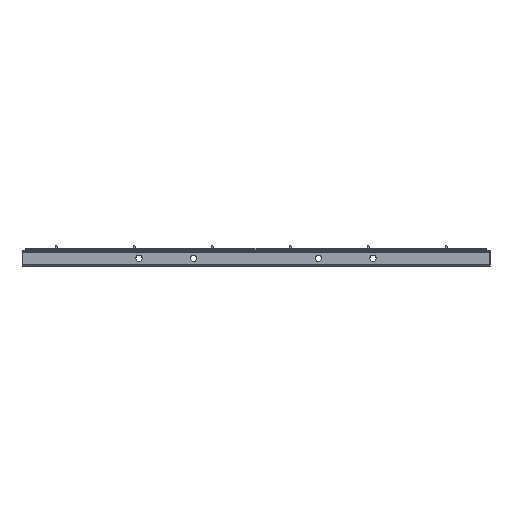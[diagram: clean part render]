
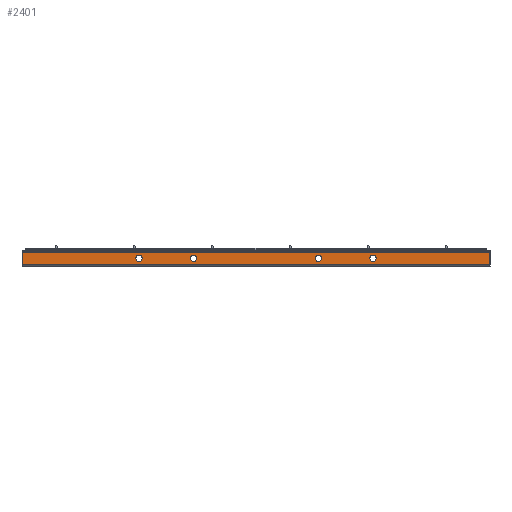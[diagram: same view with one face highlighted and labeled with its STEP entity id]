
A CAD part, left-side view. The second image highlights one B-rep face of the part: STEP entity #2401.
In plain terms, the highlighted planar face has unit normal (-1, 0, 0).
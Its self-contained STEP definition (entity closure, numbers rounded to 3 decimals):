
#156 = VERTEX_POINT ( 'NONE', #5540 ) ;
#212 = CARTESIAN_POINT ( 'NONE',  ( -750., 150., -4. ) ) ;
#262 = VERTEX_POINT ( 'NONE', #1767 ) ;
#406 = VECTOR ( 'NONE', #3541, 1000. ) ;
#413 = LINE ( 'NONE', #3591, #406 ) ;
#583 = VERTEX_POINT ( 'NONE', #6818 ) ;
#620 = EDGE_CURVE ( 'NONE', #156, #7776, #413, .T. ) ;
#704 = AXIS2_PLACEMENT_3D ( 'NONE', #3996, #5523, #3249 ) ;
#723 = CARTESIAN_POINT ( 'NONE',  ( -750., -300., -8. ) ) ;
#820 = DIRECTION ( 'NONE',  ( 0., 0., -1. ) ) ;
#873 = DIRECTION ( 'NONE',  ( 0., 0., -1. ) ) ;
#966 = EDGE_CURVE ( 'NONE', #4888, #583, #8930, .T. ) ;
#1017 = EDGE_LOOP ( 'NONE', ( #7639, #4688 ) ) ;
#1104 = AXIS2_PLACEMENT_3D ( 'NONE', #6111, #4522, #7797 ) ;
#1210 = CIRCLE ( 'NONE', #7135, 4. ) ;
#1498 = DIRECTION ( 'NONE',  ( 0., 0., -1. ) ) ;
#1519 = CARTESIAN_POINT ( 'NONE',  ( -750., -300., 8. ) ) ;
#1564 = ORIENTED_EDGE ( 'NONE', *, *, #2985, .T. ) ;
#1682 = ORIENTED_EDGE ( 'NONE', *, *, #3967, .T. ) ;
#1729 = ORIENTED_EDGE ( 'NONE', *, *, #5405, .T. ) ;
#1767 = CARTESIAN_POINT ( 'NONE',  ( -750., -150., 4. ) ) ;
#2145 = CARTESIAN_POINT ( 'NONE',  ( -750., -300., -8. ) ) ;
#2187 = EDGE_CURVE ( 'NONE', #262, #6465, #9065, .T. ) ;
#2308 = VECTOR ( 'NONE', #6681, 1000. ) ;
#2313 = AXIS2_PLACEMENT_3D ( 'NONE', #5698, #5011, #4903 ) ;
#2401 = ADVANCED_FACE ( 'NONE', ( #4270, #8341, #5971, #9199, #5530 ), #7120, .F. ) ;
#2603 = CIRCLE ( 'NONE', #6485, 4. ) ;
#2886 = EDGE_CURVE ( 'NONE', #6066, #3880, #3154, .T. ) ;
#2925 = VECTOR ( 'NONE', #8465, 1000. ) ;
#2985 = EDGE_CURVE ( 'NONE', #4888, #7776, #9275, .T. ) ;
#3154 = CIRCLE ( 'NONE', #1104, 4. ) ;
#3241 = CARTESIAN_POINT ( 'NONE',  ( -750., 150., 0. ) ) ;
#3249 = DIRECTION ( 'NONE',  ( 0., 0., -1. ) ) ;
#3258 = EDGE_LOOP ( 'NONE', ( #4748, #6544 ) ) ;
#3541 = DIRECTION ( 'NONE',  ( 0., 0., 1. ) ) ;
#3591 = CARTESIAN_POINT ( 'NONE',  ( -750., 300., -8. ) ) ;
#3722 = CARTESIAN_POINT ( 'NONE',  ( -750., -150., 0. ) ) ;
#3799 = VECTOR ( 'NONE', #873, 1000. ) ;
#3813 = DIRECTION ( 'NONE',  ( 1., 0., 0. ) ) ;
#3880 = VERTEX_POINT ( 'NONE', #8548 ) ;
#3967 = EDGE_CURVE ( 'NONE', #6119, #9818, #4293, .T. ) ;
#3996 = CARTESIAN_POINT ( 'NONE',  ( -750., 150., 0. ) ) ;
#4270 = FACE_BOUND ( 'NONE', #5557, .T. ) ;
#4293 = CIRCLE ( 'NONE', #5297, 4. ) ;
#4344 = EDGE_CURVE ( 'NONE', #3880, #6066, #8927, .T. ) ;
#4403 = VERTEX_POINT ( 'NONE', #5610 ) ;
#4522 = DIRECTION ( 'NONE',  ( 1., 0., 0. ) ) ;
#4619 = ORIENTED_EDGE ( 'NONE', *, *, #966, .F. ) ;
#4662 = CARTESIAN_POINT ( 'NONE',  ( -750., -80., 0. ) ) ;
#4688 = ORIENTED_EDGE ( 'NONE', *, *, #2187, .T. ) ;
#4748 = ORIENTED_EDGE ( 'NONE', *, *, #2886, .T. ) ;
#4869 = EDGE_LOOP ( 'NONE', ( #1682, #1729 ) ) ;
#4888 = VERTEX_POINT ( 'NONE', #1519 ) ;
#4903 = DIRECTION ( 'NONE',  ( 0., 0., -1. ) ) ;
#4923 = ORIENTED_EDGE ( 'NONE', *, *, #7828, .T. ) ;
#4945 = CARTESIAN_POINT ( 'NONE',  ( -750., 80., 0. ) ) ;
#5011 = DIRECTION ( 'NONE',  ( 1., 0., 0. ) ) ;
#5131 = CARTESIAN_POINT ( 'NONE',  ( -750., -300., -8. ) ) ;
#5297 = AXIS2_PLACEMENT_3D ( 'NONE', #8216, #7471, #1498 ) ;
#5365 = DIRECTION ( 'NONE',  ( 0., 1., 0. ) ) ;
#5381 = CIRCLE ( 'NONE', #10306, 4. ) ;
#5405 = EDGE_CURVE ( 'NONE', #9818, #6119, #5381, .T. ) ;
#5523 = DIRECTION ( 'NONE',  ( 1., 0., 0. ) ) ;
#5530 = FACE_OUTER_BOUND ( 'NONE', #7390, .T. ) ;
#5540 = CARTESIAN_POINT ( 'NONE',  ( -750., 300., -8. ) ) ;
#5557 = EDGE_LOOP ( 'NONE', ( #7854, #4923 ) ) ;
#5610 = CARTESIAN_POINT ( 'NONE',  ( -750., 150., 4. ) ) ;
#5698 = CARTESIAN_POINT ( 'NONE',  ( -750., -150., 0. ) ) ;
#5728 = VERTEX_POINT ( 'NONE', #212 ) ;
#5971 = FACE_BOUND ( 'NONE', #3258, .T. ) ;
#6031 = ORIENTED_EDGE ( 'NONE', *, *, #620, .F. ) ;
#6048 = CARTESIAN_POINT ( 'NONE',  ( -750., -300., 8. ) ) ;
#6066 = VERTEX_POINT ( 'NONE', #7989 ) ;
#6111 = CARTESIAN_POINT ( 'NONE',  ( -750., -80., 0. ) ) ;
#6119 = VERTEX_POINT ( 'NONE', #7300 ) ;
#6233 = DIRECTION ( 'NONE',  ( 1., 0., 0. ) ) ;
#6465 = VERTEX_POINT ( 'NONE', #10364 ) ;
#6472 = DIRECTION ( 'NONE',  ( 1., 0., 0. ) ) ;
#6485 = AXIS2_PLACEMENT_3D ( 'NONE', #3241, #6472, #9703 ) ;
#6537 = AXIS2_PLACEMENT_3D ( 'NONE', #2145, #6233, #5365 ) ;
#6544 = ORIENTED_EDGE ( 'NONE', *, *, #4344, .T. ) ;
#6681 = DIRECTION ( 'NONE',  ( 0., 1., 0. ) ) ;
#6818 = CARTESIAN_POINT ( 'NONE',  ( -750., -300., -8. ) ) ;
#7060 = CARTESIAN_POINT ( 'NONE',  ( -750., 300., 8. ) ) ;
#7120 = PLANE ( 'NONE',  #6537 ) ;
#7135 = AXIS2_PLACEMENT_3D ( 'NONE', #3722, #10184, #7911 ) ;
#7300 = CARTESIAN_POINT ( 'NONE',  ( -750., 80., -4. ) ) ;
#7390 = EDGE_LOOP ( 'NONE', ( #6031, #9339, #4619, #1564 ) ) ;
#7395 = EDGE_CURVE ( 'NONE', #5728, #4403, #2603, .T. ) ;
#7471 = DIRECTION ( 'NONE',  ( 1., 0., 0. ) ) ;
#7639 = ORIENTED_EDGE ( 'NONE', *, *, #7743, .T. ) ;
#7743 = EDGE_CURVE ( 'NONE', #6465, #262, #1210, .T. ) ;
#7756 = AXIS2_PLACEMENT_3D ( 'NONE', #4662, #3813, #10276 ) ;
#7776 = VERTEX_POINT ( 'NONE', #7060 ) ;
#7797 = DIRECTION ( 'NONE',  ( 0., 0., -1. ) ) ;
#7828 = EDGE_CURVE ( 'NONE', #4403, #5728, #9160, .T. ) ;
#7854 = ORIENTED_EDGE ( 'NONE', *, *, #7395, .T. ) ;
#7911 = DIRECTION ( 'NONE',  ( 0., 0., -1. ) ) ;
#7989 = CARTESIAN_POINT ( 'NONE',  ( -750., -80., -4. ) ) ;
#8180 = DIRECTION ( 'NONE',  ( 1., 0., 0. ) ) ;
#8216 = CARTESIAN_POINT ( 'NONE',  ( -750., 80., 0. ) ) ;
#8341 = FACE_BOUND ( 'NONE', #4869, .T. ) ;
#8465 = DIRECTION ( 'NONE',  ( 0., 1., 0. ) ) ;
#8548 = CARTESIAN_POINT ( 'NONE',  ( -750., -80., 4. ) ) ;
#8579 = EDGE_CURVE ( 'NONE', #583, #156, #9967, .T. ) ;
#8927 = CIRCLE ( 'NONE', #7756, 4. ) ;
#8930 = LINE ( 'NONE', #723, #3799 ) ;
#9065 = CIRCLE ( 'NONE', #2313, 4. ) ;
#9160 = CIRCLE ( 'NONE', #704, 4. ) ;
#9199 = FACE_BOUND ( 'NONE', #1017, .T. ) ;
#9275 = LINE ( 'NONE', #6048, #2308 ) ;
#9339 = ORIENTED_EDGE ( 'NONE', *, *, #8579, .F. ) ;
#9703 = DIRECTION ( 'NONE',  ( 0., 0., -1. ) ) ;
#9818 = VERTEX_POINT ( 'NONE', #10076 ) ;
#9967 = LINE ( 'NONE', #5131, #2925 ) ;
#10076 = CARTESIAN_POINT ( 'NONE',  ( -750., 80., 4. ) ) ;
#10184 = DIRECTION ( 'NONE',  ( 1., 0., 0. ) ) ;
#10276 = DIRECTION ( 'NONE',  ( 0., 0., -1. ) ) ;
#10306 = AXIS2_PLACEMENT_3D ( 'NONE', #4945, #8180, #820 ) ;
#10364 = CARTESIAN_POINT ( 'NONE',  ( -750., -150., -4. ) ) ;
